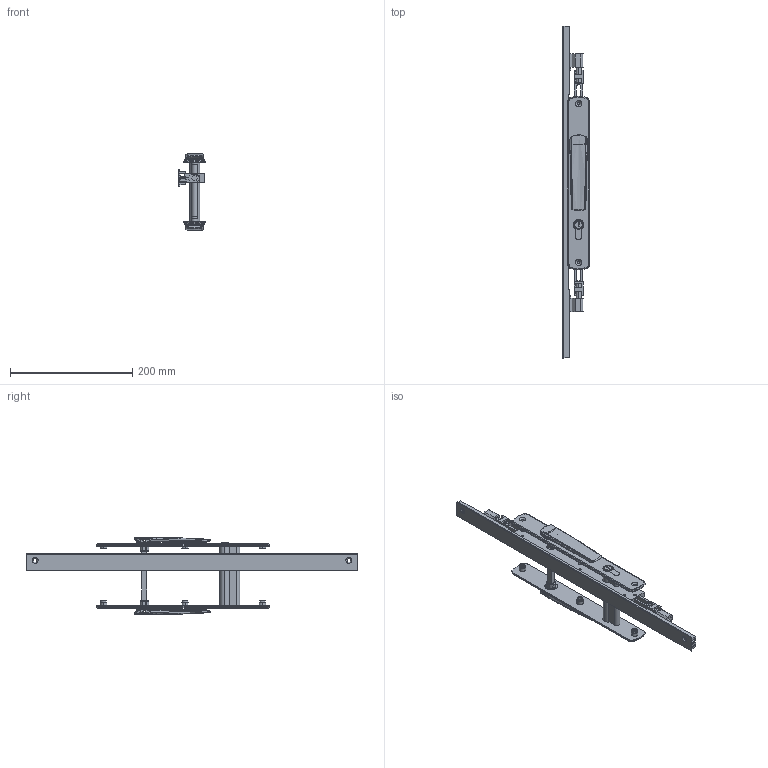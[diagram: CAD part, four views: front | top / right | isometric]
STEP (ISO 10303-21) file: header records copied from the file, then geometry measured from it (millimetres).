
FILE_DESCRIPTION (( 'STEP AP214' ), '1' );
FILE_NAME ('TPL-W-EU-626-L 06Nov2024.STEP', '2024-11-27T22:03:49', ( '' ), ( '' ), 'SwSTEP 2.0', 'SolidWorks 2023', '' );
FILE_SCHEMA (( 'AUTOMOTIVE_DESIGN' ));
Length unit declared in the file: millimetre
Products named in the file (24): Copy of TPL-W-EU-131 04Nov2024^TPL-W-EU-126 04Nov2024_TPL-050-105 Right; Copy of Copy of Copy of LKC-531 Lock twinpoint transmission rod wood system^TPL-W-EU-126 04Nov2024_Standard Range 2891.7mm; Copy (2) of COV-112-B Cover B suit TPLGen2 standard range^TPL-W-EU-126 04Nov2024_2870mm; Copy of Adapter CnE - simplfied^TPL-W-EU-126 04Nov2024_26mm backset; Copy of LKC-514 Escutcheon plate keyed external 285mm long zinc - simplified^Copy of TPGen2 handle keyed external zinc - simplified_TPL-W-EU-126 04Nov2024; Copy of COV-112-A Cover A suit TPLGen2 standard range^TPL-W-EU-126 04Nov2024_2870mm; Copy of Copy of LKC-531 Lock twinpoint transmission rod wood system^TPL-W-EU-126 04Nov2024_Standard Range 2891.7mm; Copy of COV-112-C Cover C TPLGen2 Lock body^TPL-W-EU-126 04Nov2024; Copy of LKC-512 Escutcheon plate keyed internal 285mm long zinc - simplified^Copy of TPGen2 handle keyed internal zinc - simplified_TPL-W-EU-126 04Nov2024; Copy of LKC-585 Rotator body zinc^Copy of TPGen2 handle keyed internal zinc - simplified_TPL-W-EU-126 04Nov2024; Bolt.step; Copy of LKC-585 Rotator body zinc^Copy of TPGen2 handle keyed external zinc - simplified_TPL-W-EU-126 04Nov2024; Copy of TPGen2 handle keyed external zinc - simplified^TPL-W-EU-126 04Nov2024_Vertical; Copy of LKC-586 Spindle square 8mm with M4 hole^Copy of TPGen2 handle keyed internal zinc - simplified_TPL-W-EU-126 04Nov2024_100mm; Copy of TPLGen2 lock body keyed^Copy of TPLGen2 lock body keyed assembly_TPL-W-EU-126 04Nov2024; Copy of Adapter DnF - simplfied^TPL-W-EU-126 04Nov2024_26mm backset; Copy of TPLGen2 lock body keyed assembly^TPL-W-EU-126 04Nov2024_Bolts extended; Copy of TPGen2 handle keyed internal zinc - simplified^TPL-W-EU-126 04Nov2024_Vertical; Copy of LKC-584 Pivot body zinc - simplified^Copy of TPGen2 handle keyed internal zinc - simplified_TPL-W-EU-126 04Nov2024; TPLGen2 push rod - simplified^Copy of TPLGen2 lock body keyed assembly_TPL-W-EU-126 04Nov2024_Female thread M10; TPL-W-EU-626-L 06Nov2024; Copy of LKC-505 Swing handle zinc - simplified^Copy of TPGen2 handle keyed internal zinc - simplified_TPL-W-EU-126 04Nov2024; Copy of LKC-584 Pivot body zinc - simplified^Copy of TPGen2 handle keyed external zinc - simplified_TPL-W-EU-126 04Nov2024; Copy of LKC-505 Swing handle zinc - simplified^Copy of TPGen2 handle keyed external zinc - simplified_TPL-W-EU-126 04Nov2024
Assembly tree (21 placements, depth 3):
  Copy (2) of COV-112-B Cover B suit TPLGen2 standard range^TPL-W-EU-126 04Nov2024_2870mm
  Copy of COV-112-A Cover A suit TPLGen2 standard range^TPL-W-EU-126 04Nov2024_2870mm
  Bolt.step
  TPL-W-EU-626-L 06Nov2024
    Copy of TPLGen2 lock body keyed assembly^TPL-W-EU-126 04Nov2024_Bolts extended
      Copy of TPLGen2 lock body keyed^Copy of TPLGen2 lock body keyed assembly_TPL-W-EU-126 04Nov2024
      TPLGen2 push rod - simplified^Copy of TPLGen2 lock body keyed assembly_TPL-W-EU-126 04Nov2024_Female thread M10  x2
    Copy of TPGen2 handle keyed internal zinc - simplified^TPL-W-EU-126 04Nov2024_Vertical
      Copy of LKC-512 Escutcheon plate keyed internal 285mm long zinc - simplified^Copy of TPGen2 handle keyed internal zinc - simplified_TPL-W-EU-126 04Nov2024
      Copy of LKC-505 Swing handle zinc - simplified^Copy of TPGen2 handle keyed internal zinc - simplified_TPL-W-EU-126 04Nov2024
      Copy of LKC-585 Rotator body zinc^Copy of TPGen2 handle keyed internal zinc - simplified_TPL-W-EU-126 04Nov2024
      Copy of LKC-586 Spindle square 8mm with M4 hole^Copy of TPGen2 handle keyed internal zinc - simplified_TPL-W-EU-126 04Nov2024_100mm
      Copy of LKC-584 Pivot body zinc - simplified^Copy of TPGen2 handle keyed internal zinc - simplified_TPL-W-EU-126 04Nov2024
    Copy of TPGen2 handle keyed external zinc - simplified^TPL-W-EU-126 04Nov2024_Vertical
      Copy of LKC-514 Escutcheon plate keyed external 285mm long zinc - simplified^Copy of TPGen2 handle keyed external zinc - simplified_TPL-W-EU-126 04Nov2024
      Copy of LKC-505 Swing handle zinc - simplified^Copy of TPGen2 handle keyed external zinc - simplified_TPL-W-EU-126 04Nov2024
      Copy of LKC-585 Rotator body zinc^Copy of TPGen2 handle keyed external zinc - simplified_TPL-W-EU-126 04Nov2024
      Copy of LKC-584 Pivot body zinc - simplified^Copy of TPGen2 handle keyed external zinc - simplified_TPL-W-EU-126 04Nov2024
    Copy of TPL-W-EU-131 04Nov2024^TPL-W-EU-126 04Nov2024_TPL-050-105 Right
    Copy of COV-112-C Cover C TPLGen2 Lock body^TPL-W-EU-126 04Nov2024
    Copy of Copy of LKC-531 Lock twinpoint transmission rod wood system^TPL-W-EU-126 04Nov2024_Standard Range 2891.7mm
    Copy of Copy of Copy of LKC-531 Lock twinpoint transmission rod wood system^TPL-W-EU-126 04Nov2024_Standard Range 2891.7mm
    Copy of Adapter DnF - simplfied^TPL-W-EU-126 04Nov2024_26mm backset
    Copy of Adapter CnE - simplfied^TPL-W-EU-126 04Nov2024_26mm backset
Bounding box: 43.5 x 544 x 125.92 mm (x, y, z)
Volume: 371910.1 mm3; surface area: 182631.9 mm2
Topology: 18 solids, 18 shells, 1388 faces, 3374 edges, 2064 vertices
Faces by surface type: bspline 417, plane 391, cylinder 334, cone 132, torus 98, sphere 16
Entity records: 52250 total; most frequent: CARTESIAN_POINT 22800, ORIENTED_EDGE 6552, DIRECTION 5314, EDGE_CURVE 3276, AXIS2_PLACEMENT_3D 2058, VERTEX_POINT 2004, EDGE_LOOP 1486, ADVANCED_FACE 1353
